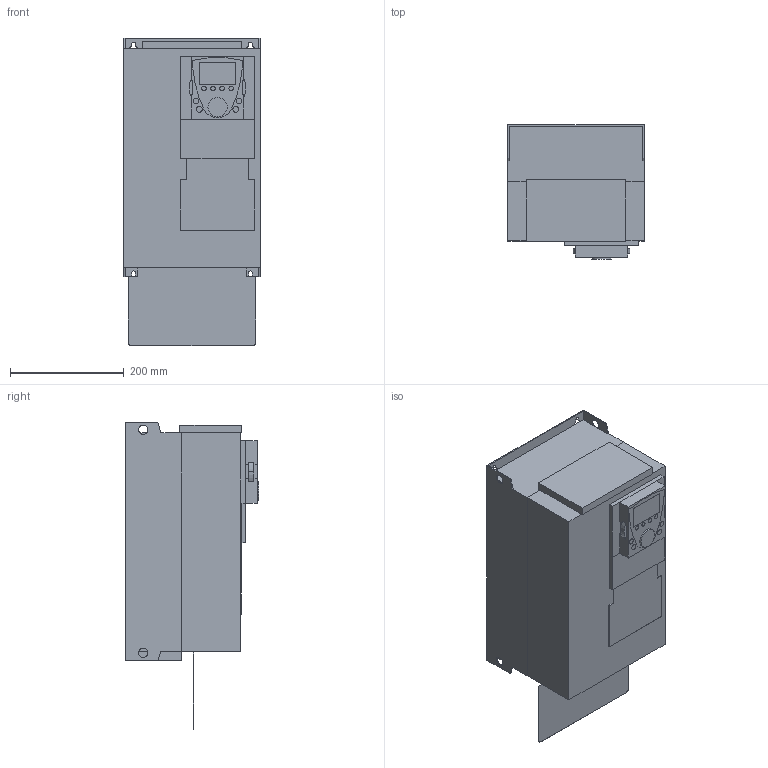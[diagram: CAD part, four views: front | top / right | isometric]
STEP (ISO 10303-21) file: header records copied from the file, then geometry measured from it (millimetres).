
FILE_DESCRIPTION(('starvars output'),'2;1');
FILE_NAME('ATV71HD18Y_3D.stp','08:05:33 2020/04/01',( 'Thomas Industrial Network Germany GmbH'),( 'Thomas Industrial Network Germany GmbH'),'unknown preprocess','ACIS' ,'unknown authorization');
FILE_SCHEMA(('AUTOMOTIVE_DESIGN_CC2 {UNKNOWN IMPLEMENTATION LEVEL}'));
Length unit declared in the file: millimetre
Products named in the file (3): PRODUCT_ID_183; PRODUCT_ID_184; PRODUCT_ID_185
Bounding box: 240 x 236 x 542 mm (x, y, z)
Volume: 19867805.1 mm3; surface area: 613250.6 mm2
Topology: 3 solids, 3 shells, 185 faces, 492 edges, 320 vertices
Faces by surface type: plane 137, cylinder 48
Entity records: 6825 total; most frequent: ORIENTED_EDGE 988, CARTESIAN_POINT 858, DIRECTION 745, EDGE_CURVE 492, VECTOR 331, LINE 331, VERTEX_POINT 320, AXIS2_PLACEMENT_3D 207
